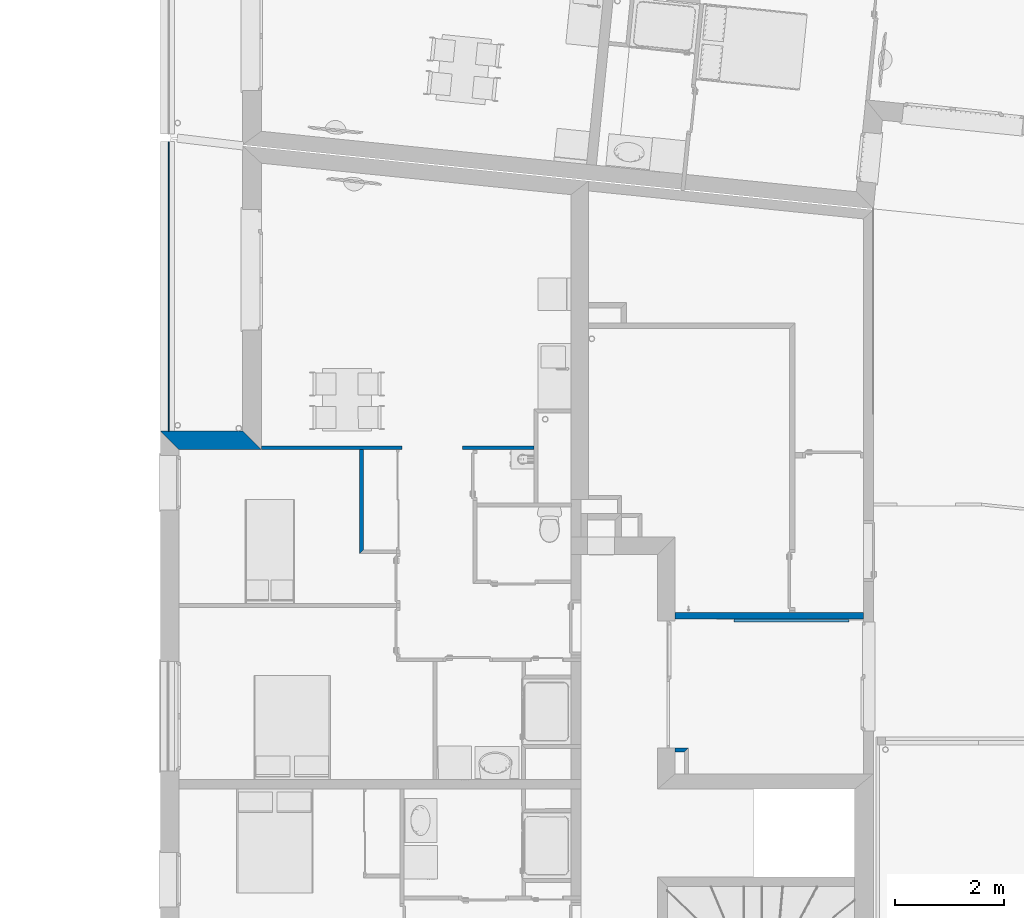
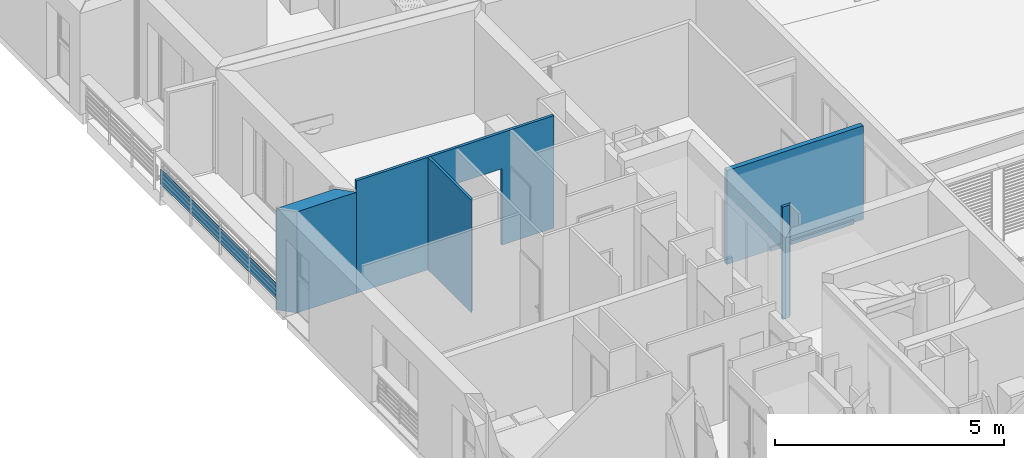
# One storey, part 53 of 171: 7 walls, 1 opening.
"""IFC2X3 building model written with IfcOpenShell, lengths in millimetres."""

from ifc_helpers import new_model, entity, si_unit, converted_unit, derived_unit, money_unit, direction, frame, origin_with_axes, origin_2d_with_axis, place, context, subcontext, project, spatial, polyline, rectangle, outline, extrude, material, layer, layer_set, layer_usage, type_object, element, save


model = new_model("IFC2X3")

# Units and contexts
model_context = context("Model", 3, precision=0.01, world=origin_with_axes(), true_north=direction((0.0, 1.0)))
body_context = subcontext(model_context, "Body", "Model", "MODEL_VIEW")
ifc_project = project(units=[si_unit("LENGTHUNIT", "METRE", prefix="MILLI"), si_unit("AREAUNIT", "SQUARE_METRE"), si_unit("VOLUMEUNIT", "CUBIC_METRE"), converted_unit("PLANEANGLEUNIT", "DEGREE", entity("IfcPlaneAngleMeasure", 0.0174532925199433), si_unit("PLANEANGLEUNIT", "RADIAN"), dimensions=[0, 0, 0, 0, 0, 0, 0]), money_unit("USD"), converted_unit("TIMEUNIT", "Year", entity("IfcTimeMeasure", 31557600.0), si_unit("TIMEUNIT", "SECOND"), dimensions=[0, 0, 1, 0, 0, 0, 0]), si_unit("MASSUNIT", "GRAM", prefix="KILO"), si_unit("THERMODYNAMICTEMPERATUREUNIT", "DEGREE_CELSIUS"), si_unit("LUMINOUSINTENSITYUNIT", "LUMEN"), si_unit("ENERGYUNIT", "JOULE", prefix="MEGA"), derived_unit("THERMALCONDUCTANCEUNIT", [(si_unit("POWERUNIT", "WATT"), 1), (si_unit("LENGTHUNIT", "METRE"), -1), (si_unit("THERMODYNAMICTEMPERATUREUNIT", "KELVIN"), -1)]), derived_unit("SPECIFICHEATCAPACITYUNIT", [(si_unit("ENERGYUNIT", "JOULE"), 1), (si_unit("MASSUNIT", "GRAM", prefix="KILO"), -1), (si_unit("THERMODYNAMICTEMPERATUREUNIT", "KELVIN"), -1)]), derived_unit("MASSDENSITYUNIT", [(si_unit("MASSUNIT", "GRAM", prefix="KILO"), 1), (si_unit("VOLUMEUNIT", "CUBIC_METRE"), -1)])], contexts=[model_context])

# Site, building, storey
site_placement = place(None, origin_with_axes())
site = spatial("IfcSite", under=ifc_project, at=site_placement, Name="Site", CompositionType="ELEMENT")
building_placement = place(site_placement, origin_with_axes())
building = spatial("IfcBuilding", under=site, at=building_placement, Name="Bâtiment", CompositionType="ELEMENT")
storey_placement = place(building_placement, frame((0.0, 0.0, 3000.0), z_axis=(0.0, 0.0, 1.0), x_axis=(1.0, 0.0, 0.0)))
storey = spatial("IfcBuildingStorey", under=building, at=storey_placement, Name="rdc", CompositionType="ELEMENT", Elevation=3000.0)

# Wall
ifc_material_1 = material(Name="Hachure solide 268963992")
ifc_layer_1 = layer(ifc_material_1, 50.0, ventilated="UNKNOWN")
ifc_layer_set_1 = layer_set([ifc_layer_1], Name="Cloison 50")
ifc_layer_usage_1 = layer_usage(ifc_layer_set_1, "AXIS2", "NEGATIVE", 50.0)
wall_type_1 = type_object("IfcWallType", Name="Cloison 50 50", PredefinedType="NOTDEFINED")
wall_1_placement = place(storey_placement, frame((2229208.698370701, -629510.5276070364, 0.0), z_axis=(0.0, 0.0, 1.0), x_axis=(-0.999997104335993, 0.002406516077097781, 0.0)))
element("IfcWallStandardCase", 1, at=wall_1_placement, inside=storey, type_object=wall_type_1, material=ifc_layer_usage_1, Name="Mur-170", context=body_context, shape_type="SweptSolid", body=[
    extrude(outline(polyline([(0.0, 0.0), (2100.613892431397, 0.0), (2100.613892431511, 49.99999999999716), (1.13686837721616e-10, 49.99999999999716), (0.0, 0.0)])), origin_with_axes(), (0.0, 0.0, 1.0), 100.0),
])

# Wall, opening
ifc_layer_2 = layer(ifc_material_1, 70.0, ventilated="UNKNOWN")
ifc_layer_set_2 = layer_set([ifc_layer_2], Name="Cloison 70 0826278243")
ifc_layer_usage_2 = layer_usage(ifc_layer_set_2, "AXIS2", "NEGATIVE", 70.0)
wall_type_2 = type_object("IfcWallType", Name="Cloison 70 0826278243 70", PredefinedType="NOTDEFINED")
wall_2_placement = place(storey_placement, frame((2223456.480168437, -626341.2135231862, 0.0), z_axis=(0.0, 0.0, 1.0), x_axis=(-0.999999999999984, -1.788637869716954e-07, 0.0)))
wall_2 = element("IfcWallStandardCase", 2, at=wall_2_placement, inside=storey, type_object=wall_type_2, material=ifc_layer_usage_2, Name="Mur-149", context=body_context, shape_type="SweptSolid", body=[
    extrude(outline(polyline([(0.0, 0.0), (4982.246831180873, 0.0), (4982.246831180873, 70.00000000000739), (1.252044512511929e-05, 70.00000000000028), (0.0, 0.0)])), origin_with_axes(), (0.0, 0.0, 1.0), 3000.0),
])
opening_placement = place(wall_2_placement, frame((1859.132975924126, 0.0, 0.0), z_axis=(0.0, 0.0, 1.0), x_axis=(1.0, 0.0, 0.0)))
element("IfcOpeningElement", 3, at=opening_placement, cuts=wall_2, Name="Por-278", context=body_context, shape_type="SweptSolid", body=[
    extrude(rectangle(XDim=1099.433063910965, YDim=2040.0, at=origin_2d_with_axis()), frame((0.0, 0.0, 1020.0), z_axis=(0.0, 1.0, 0.0), x_axis=(1.0, 0.0, 0.0)), (0.0, 0.0, -1.0), 70.0),
    extrude(rectangle(XDim=1099.433063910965, YDim=2040.0, at=origin_2d_with_axis()), frame((0.0, 0.0, 1020.0), z_axis=(0.0, -1.0, 0.0), x_axis=(1.0, 0.0, 0.0)), (0.0, 0.0, -1.0), 70.0),
])

# Walls
ifc_layer_usage_3 = layer_usage(ifc_layer_set_2, "AXIS2", "POSITIVE", -70.0)
wall_3_placement = place(storey_placement, frame((2220270.800115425, -628310.7364227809, 0.0), z_axis=(0.0, 0.0, 1.0), x_axis=(8.950533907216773e-07, 0.9999999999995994, 0.0)))
element("IfcWallStandardCase", 4, at=wall_3_placement, inside=storey, type_object=wall_type_2, material=ifc_layer_usage_3, Name="Mur-149", context=body_context, shape_type="SweptSolid", body=[
    extrude(outline(polyline([(70.00007881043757, -70.00000000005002), (1899.522404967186, -69.99999999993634), (1899.52232979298, 0.0), (0.0, 0.0), (70.00007881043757, -70.00000000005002)])), origin_with_axes(), (0.0, 0.0, 1.0), 3000.0),
])
ifc_layer_usage_4 = layer_usage(ifc_layer_set_2, "AXIS2", "NEGATIVE", 70.0)
wall_4_placement = place(storey_placement, frame((2226275.931858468, -631860.848652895, 0.0), z_axis=(0.0, 0.0, 1.0), x_axis=(-0.9999997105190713, 0.0007608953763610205, 0.0)))
element("IfcWallStandardCase", 5, at=wall_4_placement, inside=storey, type_object=wall_type_2, material=ifc_layer_usage_4, Name="Mur-150", context=body_context, shape_type="SweptSolid", body=[
    extrude(outline(polyline([(0.0, 0.0), (243.6135722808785, 0.0), (243.6135722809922, 70.00000000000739), (69.94675757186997, 70.00000000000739), (0.0, 0.0)])), origin_with_axes(), (0.0, 0.0, 1.0), 3000.0),
])
ifc_material_2 = material(Name="MANQUANT")
ifc_layer_3 = layer(ifc_material_2, 20.0, ventilated="UNKNOWN")
ifc_layer_set_3 = layer_set([ifc_layer_3], Name="MANQUANT 20")
ifc_layer_usage_5 = layer_usage(ifc_layer_set_3, "AXIS2", "NEGATIVE", 20.0)
wall_type_3 = type_object("IfcWallType", Name="MANQUANT 20", PredefinedType="NOTDEFINED")
wall_5_placement = place(storey_placement, frame((2216794.993184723, -626071.2141322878, 100.0000000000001), z_axis=(0.0, 0.0, 1.0), x_axis=(1.325468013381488e-06, 0.9999999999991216, 0.0)))
element("IfcWallStandardCase", 6, at=wall_5_placement, inside=storey, type_object=wall_type_3, material=ifc_layer_usage_5, Name="Mur-152", context=body_context, shape_type="SweptSolid", body=[
    extrude(outline(polyline([(0.0, 0.0), (5281.028403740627, 0.0), (5281.028403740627, 19.99999999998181), (-2.650936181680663e-05, 19.99999999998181), (0.0, 0.0)])), origin_with_axes(), (0.0, 0.0, 1.0), 400.0),
])
ifc_material_3 = material(Name="Parpaing 312445824")
ifc_layer_4 = layer(ifc_material_3, 180.0, ventilated="UNKNOWN")
ifc_material_4 = material(Name="Isolant styromousse 301821074")
ifc_layer_5 = layer(ifc_material_4, 160.0, ventilated="UNKNOWN")
ifc_layer_set_4 = layer_set([ifc_layer_4, ifc_layer_5], Name="isol int 18+16 0018356637")
ifc_layer_usage_6 = layer_usage(ifc_layer_set_4, "AXIS2", "NEGATIVE", 0.0)
wall_type_4 = type_object("IfcWallType", Name="isol int 18+16 0018356637 340", PredefinedType="NOTDEFINED")
wall_6_placement = place(storey_placement, frame((2216634.236006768, -626071.2141322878, 0.0), z_axis=(0.0, 0.0, 1.0), x_axis=(1.0, 0.0, 0.0)))
element("IfcWallStandardCase", 7, at=wall_6_placement, inside=storey, type_object=wall_type_4, material=ifc_layer_usage_6, Name="Mur-142", context=body_context, shape_type="SweptSolid", body=[
    extrude(outline(polyline([(340.0020031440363, -340.0000000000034), (1839.997338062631, -340.0000000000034), (1499.997338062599, 0.0), (0.0, 0.0), (340.0020031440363, -340.0000000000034)])), origin_with_axes(), (0.0, 0.0, 1.0), 2700.0),
])
ifc_material_5 = material(Name="Brique 1 268964100")
ifc_layer_6 = layer(ifc_material_5, 120.0, ventilated="UNKNOWN")
ifc_layer_set_5 = layer_set([ifc_layer_6], Name="Cloison 120")
ifc_layer_usage_7 = layer_usage(ifc_layer_set_5, "AXIS2", "NEGATIVE", 0.0)
wall_type_5 = type_object("IfcWallType", Name="Cloison 120 120", PredefinedType="NOTDEFINED")
wall_7_placement = place(storey_placement, frame((2229653.476037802, -629505.4724459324, 0.0), z_axis=(0.0, 0.0, 1.0), x_axis=(-1.0, 0.0, 0.0)))
element("IfcWallStandardCase", 8, at=wall_7_placement, inside=storey, type_object=wall_type_5, material=ifc_layer_usage_7, Name="Mur-133", context=body_context, shape_type="SweptSolid", body=[
    extrude(outline(polyline([(179.9999999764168, -119.9999999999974), (3621.1576810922, -119.9999999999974), (3621.1576810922, 0.0), (179.99999999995, 0.0), (179.9999999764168, -119.9999999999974)])), origin_with_axes(), (0.0, 0.0, 1.0), 2500.0),
])

save(model, "model.ifc")
